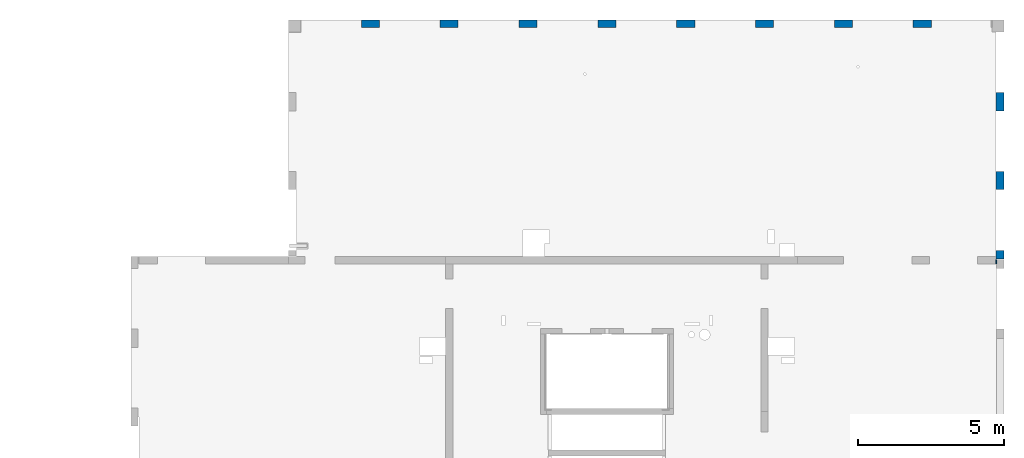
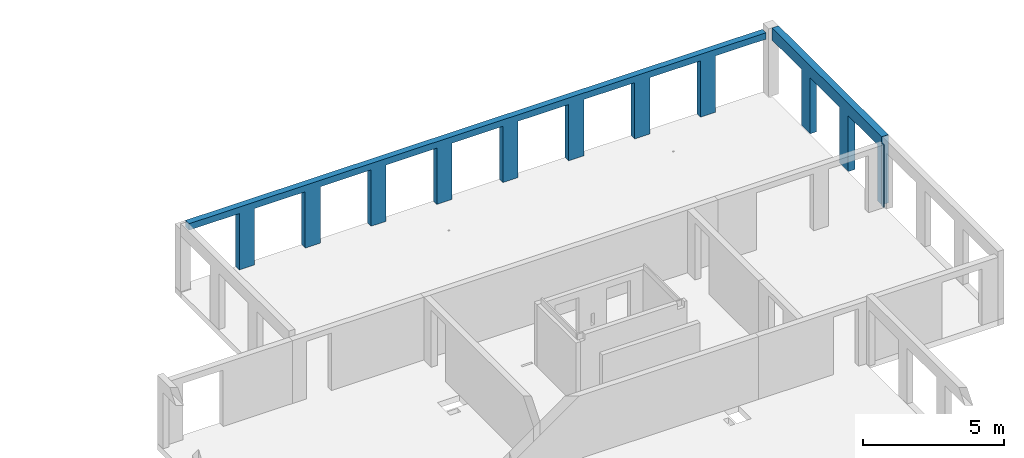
# One storey, part 9 of 13: 3 walls, 12 openings.
"""IFC2X3 building model written with IfcOpenShell, lengths in millimetres."""

from ifc_helpers import new_model, entity, si_unit, converted_unit, derived_unit, direction, frame, frame_2d, origin, place, context, subcontext, project, spatial, rectangle, extrude, material, layer, layer_set, layer_usage, type_object, element, save


model = new_model("IFC2X3")

# Units and contexts
model_context = context("Model", 3, precision=0.01, world=origin(), true_north=direction((6.12303176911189e-17, 1.0)))
body_context = subcontext(model_context, "Body", "Model", "MODEL_VIEW")
ifc_project = project(units=[si_unit("LENGTHUNIT", "METRE", prefix="MILLI"), si_unit("AREAUNIT", "SQUARE_METRE"), si_unit("VOLUMEUNIT", "CUBIC_METRE"), converted_unit("PLANEANGLEUNIT", "DEGREE", entity("IfcRatioMeasure", 0.0174532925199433), si_unit("PLANEANGLEUNIT", "RADIAN"), dimensions=[0, 0, 0, 0, 0, 0, 0]), si_unit("MASSUNIT", "GRAM", prefix="KILO"), derived_unit("MASSDENSITYUNIT", [(si_unit("MASSUNIT", "GRAM", prefix="KILO"), 1), (si_unit("LENGTHUNIT", "METRE"), -3)]), si_unit("TIMEUNIT", "SECOND"), si_unit("FREQUENCYUNIT", "HERTZ"), si_unit("THERMODYNAMICTEMPERATUREUNIT", "DEGREE_CELSIUS"), derived_unit("THERMALTRANSMITTANCEUNIT", [(si_unit("MASSUNIT", "GRAM", prefix="KILO"), 1), (si_unit("THERMODYNAMICTEMPERATUREUNIT", "KELVIN"), -1), (si_unit("TIMEUNIT", "SECOND"), -3)]), derived_unit("VOLUMETRICFLOWRATEUNIT", [(si_unit("LENGTHUNIT", "METRE"), 3), (si_unit("TIMEUNIT", "SECOND"), -1)]), si_unit("ELECTRICCURRENTUNIT", "AMPERE"), si_unit("ELECTRICVOLTAGEUNIT", "VOLT"), si_unit("POWERUNIT", "WATT"), si_unit("FORCEUNIT", "NEWTON", prefix="KILO"), si_unit("ILLUMINANCEUNIT", "LUX"), si_unit("LUMINOUSFLUXUNIT", "LUMEN"), si_unit("LUMINOUSINTENSITYUNIT", "CANDELA"), derived_unit("USERDEFINED", [(si_unit("MASSUNIT", "GRAM", prefix="KILO"), -1), (si_unit("LENGTHUNIT", "METRE"), -2), (si_unit("TIMEUNIT", "SECOND"), 3), (si_unit("LUMINOUSFLUXUNIT", "LUMEN"), 1)]), derived_unit("LINEARVELOCITYUNIT", [(si_unit("LENGTHUNIT", "METRE"), 1), (si_unit("TIMEUNIT", "SECOND"), -1)]), si_unit("PRESSUREUNIT", "PASCAL"), derived_unit("USERDEFINED", [(si_unit("LENGTHUNIT", "METRE"), -2), (si_unit("MASSUNIT", "GRAM", prefix="KILO"), 1), (si_unit("TIMEUNIT", "SECOND"), -2)])], contexts=[model_context])

# Site, building, storey
site_placement = place(None, origin())
site = spatial("IfcSite", under=ifc_project, at=site_placement, Name="Default", CompositionType="ELEMENT")
building_placement = place(site_placement, origin())
building = spatial("IfcBuilding", under=site, at=building_placement, Name="niet gebruiken", CompositionType="ELEMENT")
storey_placement = place(building_placement, frame((0.0, 0.0, 60120.0)))
storey = spatial("IfcBuildingStorey", under=building, at=storey_placement, Name="20 twintigste verdieping", CompositionType="ELEMENT", Elevation=60120.0)

# Wall, openings
ifc_material_1 = material(Name="NLRS_f2_beton ihwg")
ifc_layer_1 = layer(ifc_material_1, 250.0)
ifc_layer_set_1 = layer_set([ifc_layer_1], Name="Basic Wall:NLRS_21.21_WA_beton ihwg d=250_gen")
ifc_layer_usage_1 = layer_usage(ifc_layer_set_1, "AXIS2", "NEGATIVE", 125.0)
wall_type_1 = type_object("IfcWallType", Name="Basic Wall:NLRS_21.21_WA_beton ihwg d=250_gen", PredefinedType="STANDARD", material=ifc_layer_set_1)
wall_1_placement = place(storey_placement, frame((104970.0, 53131.0, -90.0), z_axis=(0.0, 0.0, 1.0), x_axis=(-1.0, 0.0, 0.0)))
wall_1 = element("IfcWallStandardCase", 1, at=wall_1_placement, inside=storey, type_object=wall_type_1, material=ifc_layer_usage_1, Name="Basic Wall:NLRS_21.21_WA_beton ihwg d=250_gen", ObjectType="Basic Wall:NLRS_21.21_WA_beton ihwg d=250_gen", context=body_context, shape_type="SweptSolid", body=[
    extrude(rectangle(XDim=23640.0000000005, YDim=249.999999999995, at=frame_2d((11820.0000000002, 5.82645043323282e-13), x_axis=(-1.0, 0.0))), origin(), (0.0, 0.0, 1.0), 2720.00000000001),
])
opening_1_placement = place(wall_1_placement, origin())
element("IfcOpeningElement", 2, at=opening_1_placement, cuts=wall_1, Name="Basic Wall:NLRS_21.21_WA_beton ihwg d=250_gen", ObjectType="Opening", context=body_context, shape_type="SweptSolid", body=[
    extrude(rectangle(XDim=2440.0, YDim=2080.0, at=frame_2d((8.64019966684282e-12, 0.0), x_axis=(0.0, 1.0))), frame((22620.0, -1399.0, 1220.0), z_axis=(0.0, 1.0, 0.0), x_axis=(-1.0, 0.0, 0.0)), (0.0, 0.0, 1.0), 3048.0),
])
opening_2_placement = place(wall_1_placement, origin())
element("IfcOpeningElement", 3, at=opening_2_placement, cuts=wall_1, Name="Basic Wall:NLRS_21.21_WA_beton ihwg d=250_gen", ObjectType="Opening", context=body_context, shape_type="SweptSolid", body=[
    extrude(rectangle(XDim=2440.0, YDim=2080.0, at=frame_2d((-8.64019966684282e-12, 0.0), x_axis=(0.0, 1.0))), frame((19920.0, -1399.0, 1220.0), z_axis=(0.0, 1.0, 0.0), x_axis=(-1.0, 0.0, 0.0)), (0.0, 0.0, 1.0), 3048.0),
])
opening_3_placement = place(wall_1_placement, origin())
element("IfcOpeningElement", 4, at=opening_3_placement, cuts=wall_1, Name="Basic Wall:NLRS_21.21_WA_beton ihwg d=250_gen", ObjectType="Opening", context=body_context, shape_type="SweptSolid", body=[
    extrude(rectangle(XDim=2440.0, YDim=2080.0, at=frame_2d((-8.64019966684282e-12, 0.0), x_axis=(0.0, 1.0))), frame((17220.0, -1399.0, 1220.0), z_axis=(0.0, 1.0, 0.0), x_axis=(-1.0, 0.0, 0.0)), (0.0, 0.0, 1.0), 3048.0),
])
opening_4_placement = place(wall_1_placement, origin())
element("IfcOpeningElement", 5, at=opening_4_placement, cuts=wall_1, Name="Basic Wall:NLRS_21.21_WA_beton ihwg d=250_gen", ObjectType="Opening", context=body_context, shape_type="SweptSolid", body=[
    extrude(rectangle(XDim=2440.0, YDim=2080.0, at=frame_2d((8.64019966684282e-12, 0.0), x_axis=(0.0, 1.0))), frame((14520.0, -1399.0, 1220.0), z_axis=(0.0, 1.0, 0.0), x_axis=(-1.0, 0.0, 0.0)), (0.0, 0.0, 1.0), 3048.0),
])
opening_5_placement = place(wall_1_placement, origin())
element("IfcOpeningElement", 6, at=opening_5_placement, cuts=wall_1, Name="Basic Wall:NLRS_21.21_WA_beton ihwg d=250_gen", ObjectType="Opening", context=body_context, shape_type="SweptSolid", body=[
    extrude(rectangle(XDim=2440.0, YDim=2080.0, at=frame_2d((-8.64019966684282e-12, 0.0), x_axis=(0.0, 1.0))), frame((11820.0, -1399.0, 1220.0), z_axis=(0.0, 1.0, 0.0), x_axis=(-1.0, 0.0, 0.0)), (0.0, 0.0, 1.0), 3048.0),
])
opening_6_placement = place(wall_1_placement, origin())
element("IfcOpeningElement", 7, at=opening_6_placement, cuts=wall_1, Name="Basic Wall:NLRS_21.21_WA_beton ihwg d=250_gen", ObjectType="Opening", context=body_context, shape_type="SweptSolid", body=[
    extrude(rectangle(XDim=2440.0, YDim=2080.0, at=frame_2d((-8.64019966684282e-12, 0.0), x_axis=(0.0, 1.0))), frame((9120.0, -1399.0, 1220.0), z_axis=(0.0, 1.0, 0.0), x_axis=(-1.0, 0.0, 0.0)), (0.0, 0.0, 1.0), 3048.0),
])
opening_7_placement = place(wall_1_placement, origin())
element("IfcOpeningElement", 8, at=opening_7_placement, cuts=wall_1, Name="Basic Wall:NLRS_21.21_WA_beton ihwg d=250_gen", ObjectType="Opening", context=body_context, shape_type="SweptSolid", body=[
    extrude(rectangle(XDim=2440.0, YDim=2080.0, at=frame_2d((8.64019966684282e-12, 0.0), x_axis=(0.0, 1.0))), frame((6420.0, -1399.0, 1220.0), z_axis=(0.0, 1.0, 0.0), x_axis=(-1.0, 0.0, 0.0)), (0.0, 0.0, 1.0), 3048.0),
])
opening_8_placement = place(wall_1_placement, origin())
element("IfcOpeningElement", 9, at=opening_8_placement, cuts=wall_1, Name="Basic Wall:NLRS_21.21_WA_beton ihwg d=250_gen", ObjectType="Opening", context=body_context, shape_type="SweptSolid", body=[
    extrude(rectangle(XDim=2440.0, YDim=2080.0, at=frame_2d((8.64019966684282e-12, 0.0), x_axis=(0.0, 1.0))), frame((3720.0, -1399.0, 1220.0), z_axis=(0.0, 1.0, 0.0), x_axis=(-1.0, 0.0, 0.0)), (0.0, 0.0, 1.0), 3048.0),
])
opening_9_placement = place(wall_1_placement, origin())
element("IfcOpeningElement", 10, at=opening_9_placement, cuts=wall_1, Name="Basic Wall:NLRS_21.21_WA_beton ihwg d=250_gen", ObjectType="Opening", context=body_context, shape_type="SweptSolid", body=[
    extrude(rectangle(XDim=2440.0, YDim=2080.0, at=frame_2d((-8.64019966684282e-12, 0.0), x_axis=(0.0, 1.0))), frame((1020.0, -1399.0, 1220.0), z_axis=(0.0, 1.0, 0.0), x_axis=(-1.0, 0.0, 0.0)), (0.0, 0.0, 1.0), 3048.0),
])

ifc_material_2 = material(Name="NLRS_f2_beton prefab")
ifc_layer_2 = layer(ifc_material_2, 270.0)
ifc_layer_set_2 = layer_set([ifc_layer_2], Name="Basic Wall:NLRS_21.21_WA_beton prefab d=270_gen")
ifc_layer_usage_2 = layer_usage(ifc_layer_set_2, "AXIS2", "NEGATIVE", 135.0)
wall_type_2 = type_object("IfcWallType", Name="Basic Wall:NLRS_21.21_WA_beton prefab d=270_gen", PredefinedType="STANDARD", material=ifc_layer_set_2)
wall_2_placement = place(storey_placement, frame((105265.0, 52846.0, -70.0), z_axis=(0.0, 0.0, 1.0), x_axis=(0.0, -1.0, 0.0)))
wall_2 = element("IfcWallStandardCase", 11, at=wall_2_placement, inside=storey, type_object=wall_type_2, material=ifc_layer_usage_2, Name="Basic Wall:NLRS_21.21_WA_beton prefab d=270_gen", ObjectType="Basic Wall:NLRS_21.21_WA_beton prefab d=270_gen", context=body_context, shape_type="SweptSolid", body=[
    extrude(rectangle(XDim=7780.00000000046, YDim=270.000000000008, at=frame_2d((3890.00000000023, 0.0), x_axis=(-1.0, 0.0))), origin(), (0.0, 0.0, 1.0), 2950.00000000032),
])
opening_10_placement = place(wall_2_placement, origin())
element("IfcOpeningElement", 12, at=opening_10_placement, cuts=wall_2, Name="Basic Wall:NLRS_21.21_WA_beton prefab d=270_gen", ObjectType="Opening", context=body_context, shape_type="SweptSolid", body=[
    extrude(rectangle(XDim=2420.0, YDim=2080.0, at=frame_2d((0.0, 0.0), x_axis=(0.0, 1.0))), frame((1040.0, -1389.0, 1210.0), z_axis=(0.0, 1.0, 0.0), x_axis=(-1.0, 0.0, 0.0)), (0.0, 0.0, 1.0), 3048.0),
])
opening_11_placement = place(wall_2_placement, origin())
element("IfcOpeningElement", 13, at=opening_11_placement, cuts=wall_2, Name="Basic Wall:NLRS_21.21_WA_beton prefab d=270_gen", ObjectType="Opening", context=body_context, shape_type="SweptSolid", body=[
    extrude(rectangle(XDim=2420.0, YDim=2080.0, at=frame_2d((0.0, 0.0), x_axis=(0.0, 1.0))), frame((3740.0, -1389.0, 1210.0), z_axis=(0.0, 1.0, 0.0), x_axis=(-1.0, 0.0, 0.0)), (0.0, 0.0, 1.0), 3048.0),
])
opening_12_placement = place(wall_2_placement, origin())
element("IfcOpeningElement", 14, at=opening_12_placement, cuts=wall_2, Name="Basic Wall:NLRS_21.21_WA_beton prefab d=270_gen", ObjectType="Opening", context=body_context, shape_type="SweptSolid", body=[
    extrude(rectangle(XDim=2420.0, YDim=2080.0, at=frame_2d((0.0, 0.0), x_axis=(0.0, 1.0))), frame((6440.0, -1389.0, 1210.0), z_axis=(0.0, 1.0, 0.0), x_axis=(-1.0, 0.0, 0.0)), (0.0, 0.0, 1.0), 3048.0),
])

# Wall
ifc_layer_3 = layer(ifc_material_1, 140.0)
ifc_layer_set_3 = layer_set([ifc_layer_3], Name="Basic Wall:NLRS_22.21_WA_beton ihwg d=140_gen")
ifc_layer_usage_3 = layer_usage(ifc_layer_set_3, "AXIS2", "NEGATIVE", 70.0)
wall_type_3 = type_object("IfcWallType", Name="Basic Wall:NLRS_22.21_WA_beton ihwg d=140_gen", PredefinedType="STANDARD", material=ifc_layer_set_3)
wall_3_placement = place(storey_placement, frame((105110.0, 44976.0, -90.0)))
element("IfcWallStandardCase", 15, at=wall_3_placement, inside=storey, type_object=wall_type_3, material=ifc_layer_usage_3, Name="Basic Wall:NLRS_22.21_WA_beton ihwg d=140_gen", ObjectType="Basic Wall:NLRS_22.21_WA_beton ihwg d=140_gen", context=body_context, shape_type="SweptSolid", body=[
    extrude(rectangle(XDim=39.9999670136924, YDim=140.000000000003, at=frame_2d((19.9999835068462, 0.0), x_axis=(-1.0, 0.0))), origin(), (0.0, 0.0, 1.0), 2719.99999999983),
])

save(model, "model.ifc")
